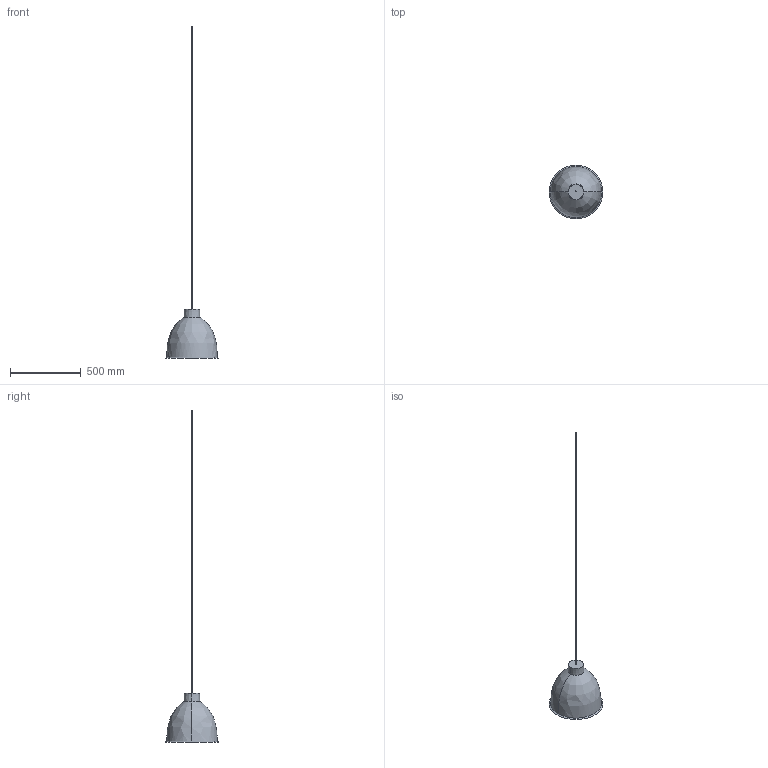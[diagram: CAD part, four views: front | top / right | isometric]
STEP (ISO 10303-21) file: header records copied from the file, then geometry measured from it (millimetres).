
FILE_DESCRIPTION(/* description */ (''),/* implementation_level */ '2;1');
FILE_NAME(/* name */ 'ILKW_WORKSHOP38_Pendant_3D',/* time_stamp */ '2026-08-28T16:46:52+09:00',/* author */ (''),/* organization */ (''),/* preprocessor_version */ 'ST-DEVELOPER v19.2',/* originating_system */ 'Rhino 8.21',/* authorisation */ '');
FILE_SCHEMA (('CONFIG_CONTROL_DESIGN'));
Length unit declared in the file: millimetre
Products named in the file (1): Document
Bounding box: 380.85 x 380.85 x 2342.35 mm (x, y, z)
Volume: 405780.6 mm3; surface area: 399505.2 mm2
Topology: 2 solids, 3 shells, 16 faces, 33 edges, 21 vertices
Faces by surface type: bspline 8, cylinder 4, plane 4
Entity records: 781 total; most frequent: CARTESIAN_POINT 394, ORIENTED_EDGE 58, DIRECTION 56, AXIS2_PLACEMENT_3D 32, EDGE_CURVE 30, TRIMMED_CURVE 20, CIRCLE 20, VERTEX_POINT 19
